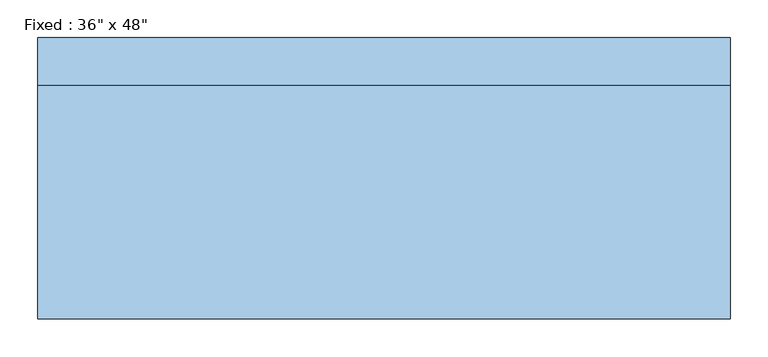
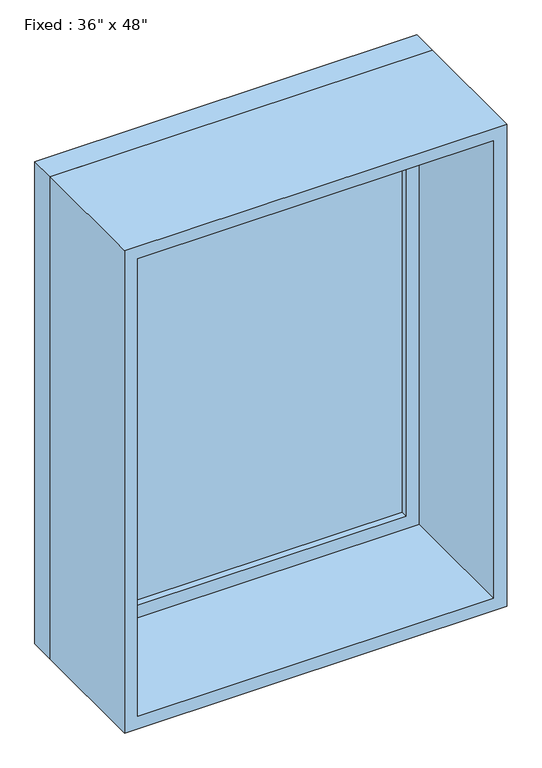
"""IFC4 building model written with IfcOpenShell, lengths in millimetres: window geometry."""

from ifc_helpers import new_model, si_unit, frame, origin, place, context, project, spatial, polyline, outline, extrude, source, transform, mapped, element, save


def window_dc516872(model_context):
    return source(origin(), model_context, "Body", "SweptSolid", [
        extrude(outline(polyline([(355.6, 138.1125), (-431.8, 138.1125), (-431.8, 150.8125), (355.6, 150.8125), (355.6, 138.1125)])), frame((0.0, 0.0, 977.9), z_axis=(0.0, 0.0, 1.0), x_axis=(1.0, 0.0, 0.0)), (0.0, 0.0, 1.0), 1092.2),
        extrude(outline(polyline([(2114.55, -476.25), (933.45, -476.25), (933.45, 400.05), (2114.55, 400.05), (2114.55, -476.25)]), holes=[polyline([(2070.1, -431.8), (2070.1, 355.6), (977.9, 355.6), (977.9, -431.8), (2070.1, -431.8)])]), frame((0.0, 122.2375, 0.0), z_axis=(0.0, 1.0, 0.0), x_axis=(0.0, 0.0, 1.0)), (0.0, 0.0, 1.0), 44.45),
        extrude(outline(polyline([(2133.6, -495.3), (914.4, -495.3), (914.4, 419.1), (2133.6, 419.1), (2133.6, -495.3)]), holes=[polyline([(2101.85, -463.55), (2101.85, 387.35), (946.15, 387.35), (946.15, -463.55), (2101.85, -463.55)])]), frame((0.0, -185.7375, 0.0), z_axis=(0.0, 1.0, 0.0), x_axis=(0.0, 0.0, 1.0)), (0.0, 0.0, 1.0), 307.975),
        extrude(outline(polyline([(2133.6, 419.1), (2133.6, -495.3), (914.4, -495.3), (914.4, 419.1), (2133.6, 419.1)]), holes=[polyline([(2114.55, 400.05), (933.45, 400.05), (933.45, -476.25), (2114.55, -476.25), (2114.55, 400.05)])]), frame((0.0, 122.2375, 0.0), z_axis=(0.0, 1.0, 0.0), x_axis=(0.0, 0.0, 1.0)), (0.0, 0.0, 1.0), 63.5),
    ])


if __name__ == "__main__":
    model = new_model("IFC4")
    model_context = context("Model", 3, world=origin())
    ifc_project = project(units=[si_unit("LENGTHUNIT", "METRE", prefix="MILLI")], contexts=[model_context])
    site = spatial("IfcSite", under=ifc_project)
    building = spatial("IfcBuilding", under=site)
    placement = place(None, origin())
    window_shape = window_dc516872(model_context)
    element("IfcWindow", 1, ObjectType="Fixed : 36\" x 48\"", at=placement, inside=building, context=model_context, shape_type="MappedRepresentation", body=[
        mapped(window_shape, transform((0.0, 0.0, 0.0), x_axis=(1.0, 0.0, 0.0), y_axis=(0.0, 1.0, 0.0), z_axis=(0.0, 0.0, 1.0))),
    ])
    save(model, "model.ifc")
